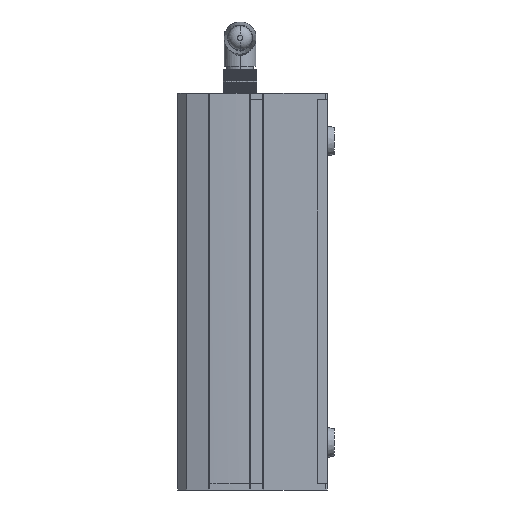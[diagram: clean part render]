
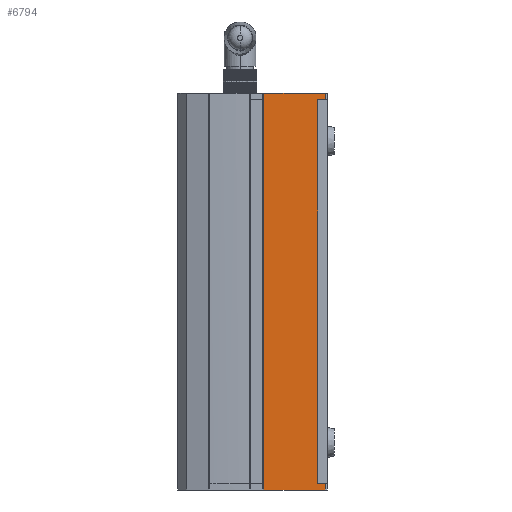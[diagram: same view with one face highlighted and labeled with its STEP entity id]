
A CAD part, left-side view. The second image highlights one B-rep face of the part: STEP entity #6794.
In plain terms, the highlighted planar face has unit normal (-1, 0, 0).
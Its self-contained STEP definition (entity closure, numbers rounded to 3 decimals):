
#12 = CARTESIAN_POINT ( 'NONE',  ( 0., 16.953, -62.5 ) ) ;
#1485 = EDGE_CURVE ( 'NONE', #3965, #28548, #40582, .T. ) ;
#1778 = CARTESIAN_POINT ( 'NONE',  ( 0., 16.953, -60.5 ) ) ;
#2528 = VECTOR ( 'NONE', #42550, 1000. ) ;
#2595 = EDGE_CURVE ( 'NONE', #10772, #64045, #17313, .T. ) ;
#3965 = VERTEX_POINT ( 'NONE', #7129 ) ;
#4136 = EDGE_CURVE ( 'NONE', #64045, #71656, #52951, .T. ) ;
#6794 = ADVANCED_FACE ( 'NONE', ( #7104 ), #19971, .F. ) ;
#7086 = AXIS2_PLACEMENT_3D ( 'NONE', #75386, #26095, #67972 ) ;
#7104 = FACE_OUTER_BOUND ( 'NONE', #49821, .T. ) ;
#7129 = CARTESIAN_POINT ( 'NONE',  ( 0., -2.5, 62.5 ) ) ;
#7454 = CARTESIAN_POINT ( 'NONE',  ( 0., 0., 60.5 ) ) ;
#10772 = VERTEX_POINT ( 'NONE', #11196 ) ;
#11196 = CARTESIAN_POINT ( 'NONE',  ( 0., -2.5, -62.5 ) ) ;
#11501 = EDGE_CURVE ( 'NONE', #29516, #3965, #55197, .T. ) ;
#12833 = LINE ( 'NONE', #7454, #2528 ) ;
#12914 = ORIENTED_EDGE ( 'NONE', *, *, #11501, .F. ) ;
#17313 = LINE ( 'NONE', #28764, #53459 ) ;
#19541 = CARTESIAN_POINT ( 'NONE',  ( 0., -2.5, -60.5 ) ) ;
#19971 = PLANE ( 'NONE',  #7086 ) ;
#20208 = CARTESIAN_POINT ( 'NONE',  ( 0., 16.953, 60.5 ) ) ;
#25425 = LINE ( 'NONE', #26573, #63133 ) ;
#26095 = DIRECTION ( 'NONE',  ( 1., 0., 0. ) ) ;
#26573 = CARTESIAN_POINT ( 'NONE',  ( 0., -2.5, 60.5 ) ) ;
#27824 = CARTESIAN_POINT ( 'NONE',  ( 0., -2.5, 60.5 ) ) ;
#28548 = VERTEX_POINT ( 'NONE', #27824 ) ;
#28764 = CARTESIAN_POINT ( 'NONE',  ( 0., -2.5, -62.5 ) ) ;
#29516 = VERTEX_POINT ( 'NONE', #47060 ) ;
#31136 = ORIENTED_EDGE ( 'NONE', *, *, #4136, .T. ) ;
#31526 = DIRECTION ( 'NONE',  ( 0., -1., 0. ) ) ;
#32687 = ORIENTED_EDGE ( 'NONE', *, *, #64278, .F. ) ;
#32925 = VECTOR ( 'NONE', #58404, 1000. ) ;
#33766 = ORIENTED_EDGE ( 'NONE', *, *, #1485, .F. ) ;
#34488 = DIRECTION ( 'NONE',  ( 0., 0., 1. ) ) ;
#34900 = CARTESIAN_POINT ( 'NONE',  ( 0., 0., 60.5 ) ) ;
#35720 = EDGE_CURVE ( 'NONE', #29516, #38350, #64872, .T. ) ;
#38350 = VERTEX_POINT ( 'NONE', #56911 ) ;
#39194 = VECTOR ( 'NONE', #47402, 1000. ) ;
#39378 = LINE ( 'NONE', #12, #32925 ) ;
#40582 = LINE ( 'NONE', #63439, #39194 ) ;
#42550 = DIRECTION ( 'NONE',  ( 0., 0., -1. ) ) ;
#47060 = CARTESIAN_POINT ( 'NONE',  ( 0., 16.953, 62.5 ) ) ;
#47402 = DIRECTION ( 'NONE',  ( 0., 0., -1. ) ) ;
#49470 = DIRECTION ( 'NONE',  ( 0., -1., 0. ) ) ;
#49821 = EDGE_LOOP ( 'NONE', ( #67396, #32687, #74381, #31136, #64583, #58247, #33766, #12914 ) ) ;
#51448 = VECTOR ( 'NONE', #49470, 1000. ) ;
#52951 = LINE ( 'NONE', #1778, #72746 ) ;
#53459 = VECTOR ( 'NONE', #34488, 1000. ) ;
#53690 = DIRECTION ( 'NONE',  ( 0., 1., 0. ) ) ;
#54102 = EDGE_CURVE ( 'NONE', #69525, #71656, #12833, .T. ) ;
#54930 = DIRECTION ( 'NONE',  ( 0., 0., -1. ) ) ;
#55197 = LINE ( 'NONE', #66589, #51448 ) ;
#56911 = CARTESIAN_POINT ( 'NONE',  ( 0., 16.953, -62.5 ) ) ;
#58247 = ORIENTED_EDGE ( 'NONE', *, *, #62164, .T. ) ;
#58404 = DIRECTION ( 'NONE',  ( 0., 1., 0. ) ) ;
#62164 = EDGE_CURVE ( 'NONE', #69525, #28548, #25425, .T. ) ;
#63133 = VECTOR ( 'NONE', #31526, 1000. ) ;
#63439 = CARTESIAN_POINT ( 'NONE',  ( 0., -2.5, 62.5 ) ) ;
#64045 = VERTEX_POINT ( 'NONE', #19541 ) ;
#64278 = EDGE_CURVE ( 'NONE', #10772, #38350, #39378, .T. ) ;
#64583 = ORIENTED_EDGE ( 'NONE', *, *, #54102, .F. ) ;
#64872 = LINE ( 'NONE', #20208, #72891 ) ;
#66589 = CARTESIAN_POINT ( 'NONE',  ( 0., -2.5, 62.5 ) ) ;
#67396 = ORIENTED_EDGE ( 'NONE', *, *, #35720, .T. ) ;
#67972 = DIRECTION ( 'NONE',  ( 0., 0., -1. ) ) ;
#69525 = VERTEX_POINT ( 'NONE', #34900 ) ;
#71656 = VERTEX_POINT ( 'NONE', #72010 ) ;
#72010 = CARTESIAN_POINT ( 'NONE',  ( 0., 0., -60.5 ) ) ;
#72746 = VECTOR ( 'NONE', #53690, 1000. ) ;
#72891 = VECTOR ( 'NONE', #54930, 1000. ) ;
#74381 = ORIENTED_EDGE ( 'NONE', *, *, #2595, .T. ) ;
#75386 = CARTESIAN_POINT ( 'NONE',  ( 0., 14.453, 60.5 ) ) ;
